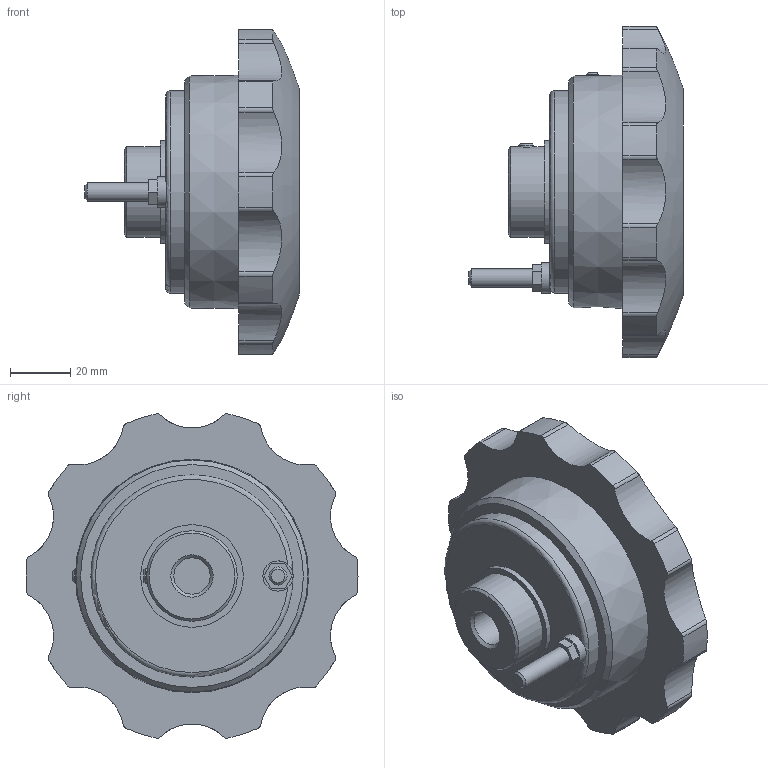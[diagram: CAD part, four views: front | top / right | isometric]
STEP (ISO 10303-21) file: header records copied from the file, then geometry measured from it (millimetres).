
FILE_DESCRIPTION( ( 'STEP AP203' ), '1' );
FILE_NAME( 'C:/Temp/Ganter_Step_05_03_2020/data/1_4/gn_577_9/Handwheel GN 577.9-110-B12.stp', '2020-03-05T10:54:55', ( 'License CC BY-ND 4.0' ), ( 'CADENAS' ), ' ', 'PARTsolutions', ' ' );
FILE_SCHEMA( ( 'CONFIG_CONTROL_DESIGN' ) );
Length unit declared in the file: millimetre
Products named in the file (1): _Handwheel GN 577.9-110-B12
Bounding box: 70.95 x 110 x 107.47 mm (x, y, z)
Volume: 151403.3 mm3; surface area: 37323.2 mm2
Topology: 1 solids, 1 shells, 106 faces, 267 edges, 176 vertices
Faces by surface type: cylinder 51, plane 45, cone 7, torus 2, bspline 1
Full cylindrical faces by diameter (mm): 4 x1, 5 x1, 6 x1, 10 x2, 12 x1, 30 x1, 34 x1, 67 x2, 68.5 x1
Entity records: 3599 total; most frequent: CARTESIAN_POINT 1146, DIRECTION 482, ORIENTED_EDGE 480, EDGE_CURVE 240, AXIS2_PLACEMENT_3D 180, VERTEX_POINT 170, EDGE_LOOP 140, LINE 122
